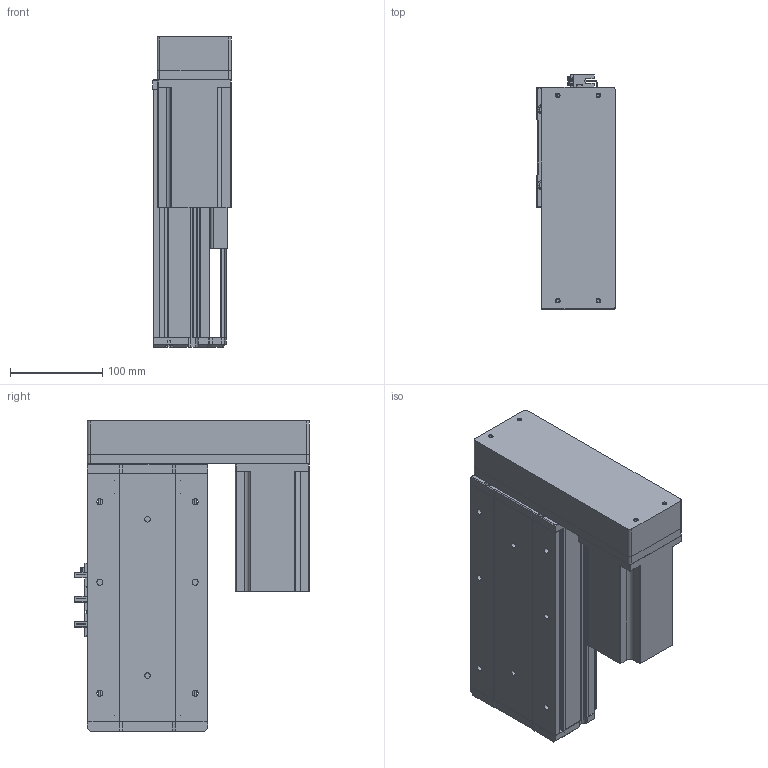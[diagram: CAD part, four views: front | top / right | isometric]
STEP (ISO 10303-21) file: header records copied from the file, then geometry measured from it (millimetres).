
FILE_DESCRIPTION (( 'STEP AP214' ), '1' );
FILE_NAME ('KSD130-P2010-S50-MR-CM.STEP', '2019-09-17T07:15:26', ( '微软用户' ), ( '微软中国' ), 'SwSTEP 2.0', 'SolidWorks 2014', '' );
FILE_SCHEMA (( 'AUTOMOTIVE_DESIGN' ));
Length unit declared in the file: millimetre
Products named in the file (11): 130遵傷裔圉猾敕; 130宽底板半封闭丝杠-50行程; KSD130-P2010-S50-MR-CM; 130宽模组保护罩左右折; 台达ECMA－C20807AS伺服电机; 130宽模组马达安装板连板左右折丝杆; U倰嫖萇EEㄜSX672; 覜茼え100遵圉猾敕; 130宽盖板半封闭丝杠-50行程; 130宽滚珠丝杆安装板半封闭-20丝杠; 130宽马达安装板半封闭
Assembly tree (12 placements, depth 2):
  KSD130-P2010-S50-MR-CM
    130宽底板半封闭丝杠-50行程
    130遵傷裔圉猾敕
    130宽马达安装板半封闭
    130宽滚珠丝杆安装板半封闭-20丝杠
    130宽盖板半封闭丝杠-50行程
    覜茼え100遵圉猾敕
    U倰嫖萇EEㄜSX672  x3
    130宽模组马达安装板连板左右折丝杆
    台达ECMA－C20807AS伺服电机
    130宽模组保护罩左右折
Bounding box: 84.5 x 253.7 x 335.5 mm (x, y, z)
Volume: 2250891.7 mm3; surface area: 541986.2 mm2
Topology: 13 solids, 13 shells, 1164 faces, 3233 edges, 2081 vertices
Faces by surface type: plane 538, cylinder 523, cone 103
Entity records: 36007 total; most frequent: CARTESIAN_POINT 6324, DIRECTION 5443, ORIENTED_EDGE 5226, EDGE_CURVE 2613, AXIS2_PLACEMENT_3D 1940, VERTEX_POINT 1705, LINE 1563, VECTOR 1563
